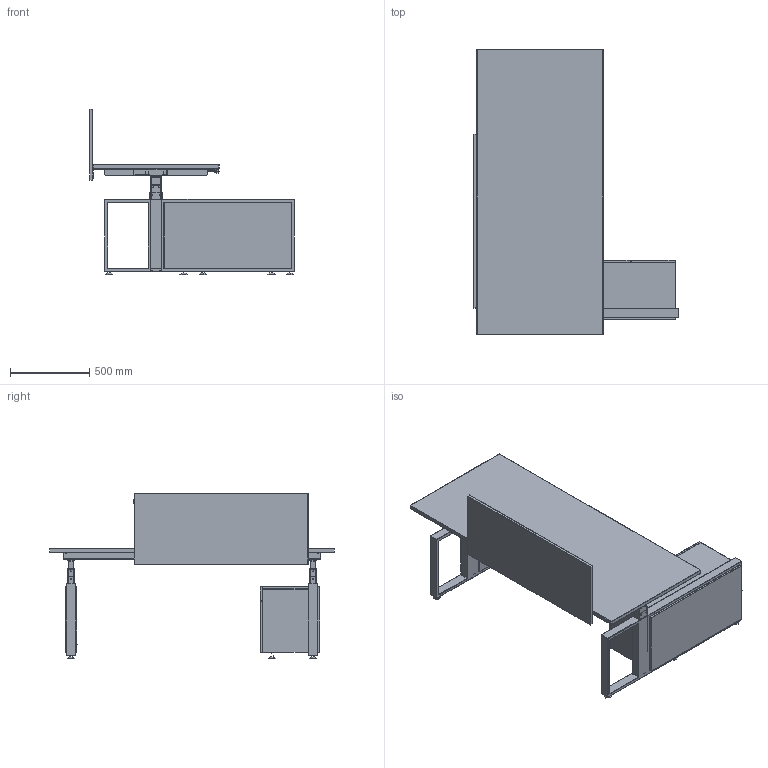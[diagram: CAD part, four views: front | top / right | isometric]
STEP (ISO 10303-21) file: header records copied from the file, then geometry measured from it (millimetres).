
FILE_DESCRIPTION ((), '1');
FILE_NAME ('C:\D\DESING\TABLE DESK PROJECT\MODESK WEB\3D MODELY KE STAZENI\ELEMENTS\MODESK_DESIGNER_1800 + KONTEJNER.stp', '2019-08-02T13:07:32', ('Unknown'), ('Unknown'), 'HarmonyWare STEP v1.4.3', 'HarmonyWare Translators', '');
FILE_SCHEMA (('CONFIG_CONTROL_DESIGN'));
Length unit declared in the file: millimetre
Products named in the file (165): MODESK_ELEMENTS_1800 + KONTEJNER
Bounding box: 1295 x 1800 x 1047.05 mm (x, y, z)
Volume: 61155241 mm3; surface area: 14971197.4 mm2
Topology: 87 solids, 165 shells, 5878 faces, 15808 edges, 10131 vertices
Faces by surface type: bspline 5878
Entity records: 312746 total; most frequent: CARTESIAN_POINT 208087, ORIENTED_EDGE 29998, EDGE_CURVE 15587, B_SPLINE_CURVE_WITH_KNOTS 10372, VERTEX_POINT 10142, EDGE_LOOP 6394, FACE_OUTER_BOUND 5878, ADVANCED_FACE 5878
